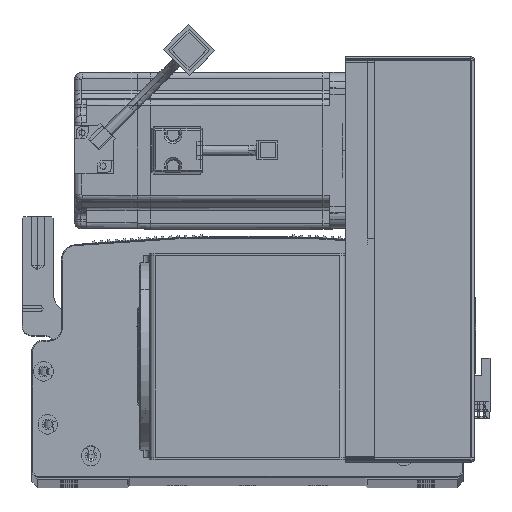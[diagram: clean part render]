
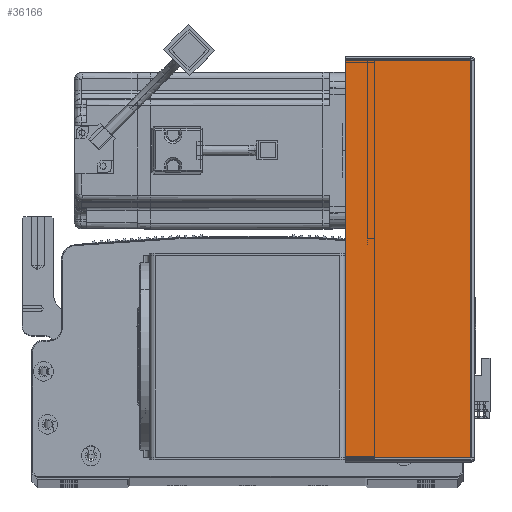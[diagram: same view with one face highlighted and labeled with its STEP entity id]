
A CAD part, top view. The second image highlights one B-rep face of the part: STEP entity #36166.
In plain terms, the highlighted planar face has unit normal (0, 0, 1) as drawn and (0, -1, 0) by its records, which use the part's own axes.
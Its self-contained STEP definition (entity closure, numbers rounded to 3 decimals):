
#4373 = VECTOR ( 'NONE', #92633, 1000. ) ;
#10638 = ORIENTED_EDGE ( 'NONE', *, *, #63669, .T. ) ;
#13148 = CARTESIAN_POINT ( 'NONE',  ( 0.737, -1.5, -0.707 ) ) ;
#14453 = VERTEX_POINT ( 'NONE', #86729 ) ;
#18511 = EDGE_CURVE ( 'NONE', #83779, #14453, #57184, .T. ) ;
#25601 = ORIENTED_EDGE ( 'NONE', *, *, #36924, .F. ) ;
#28290 = DIRECTION ( 'NONE',  ( 0., 1., 0. ) ) ;
#36166 = ADVANCED_FACE ( 'NONE', ( #42488 ), #72280, .F. ) ;
#36924 = EDGE_CURVE ( 'NONE', #61587, #43653, #60746, .T. ) ;
#37515 = DIRECTION ( 'NONE',  ( 0., 0., 1. ) ) ;
#42488 = FACE_OUTER_BOUND ( 'NONE', #93498, .T. ) ;
#43653 = VERTEX_POINT ( 'NONE', #60684 ) ;
#47608 = VECTOR ( 'NONE', #37515, 1000. ) ;
#50282 = CARTESIAN_POINT ( 'NONE',  ( 0., -1.5, -0.707 ) ) ;
#50698 = DIRECTION ( 'NONE',  ( 0., 0., 1. ) ) ;
#50810 = CARTESIAN_POINT ( 'NONE',  ( 0.737, -1.5, -203.293 ) ) ;
#57184 = LINE ( 'NONE', #77830, #4373 ) ;
#57234 = VECTOR ( 'NONE', #57656, 1000. ) ;
#57656 = DIRECTION ( 'NONE',  ( 1., 0., 0. ) ) ;
#60684 = CARTESIAN_POINT ( 'NONE',  ( 64.5, -1.5, -0.707 ) ) ;
#60746 = LINE ( 'NONE', #50282, #57234 ) ;
#61587 = VERTEX_POINT ( 'NONE', #13148 ) ;
#63669 = EDGE_CURVE ( 'NONE', #14453, #43653, #63697, .T. ) ;
#63697 = LINE ( 'NONE', #86596, #84277 ) ;
#63811 = EDGE_CURVE ( 'NONE', #83779, #61587, #91259, .T. ) ;
#65183 = CARTESIAN_POINT ( 'NONE',  ( 0., -1.5, 0. ) ) ;
#69871 = ORIENTED_EDGE ( 'NONE', *, *, #18511, .T. ) ;
#72280 = PLANE ( 'NONE',  #81497 ) ;
#75406 = ORIENTED_EDGE ( 'NONE', *, *, #63811, .F. ) ;
#77830 = CARTESIAN_POINT ( 'NONE',  ( 0., -1.5, -203.293 ) ) ;
#79949 = DIRECTION ( 'NONE',  ( -1., 0., 0. ) ) ;
#81497 = AXIS2_PLACEMENT_3D ( 'NONE', #65183, #28290, #79949 ) ;
#81755 = CARTESIAN_POINT ( 'NONE',  ( 0.737, -1.5, 0. ) ) ;
#83779 = VERTEX_POINT ( 'NONE', #50810 ) ;
#84277 = VECTOR ( 'NONE', #50698, 1000. ) ;
#86596 = CARTESIAN_POINT ( 'NONE',  ( 64.5, -1.5, 0. ) ) ;
#86729 = CARTESIAN_POINT ( 'NONE',  ( 64.5, -1.5, -203.293 ) ) ;
#91259 = LINE ( 'NONE', #81755, #47608 ) ;
#92633 = DIRECTION ( 'NONE',  ( 1., 0., 0. ) ) ;
#93498 = EDGE_LOOP ( 'NONE', ( #75406, #69871, #10638, #25601 ) ) ;
